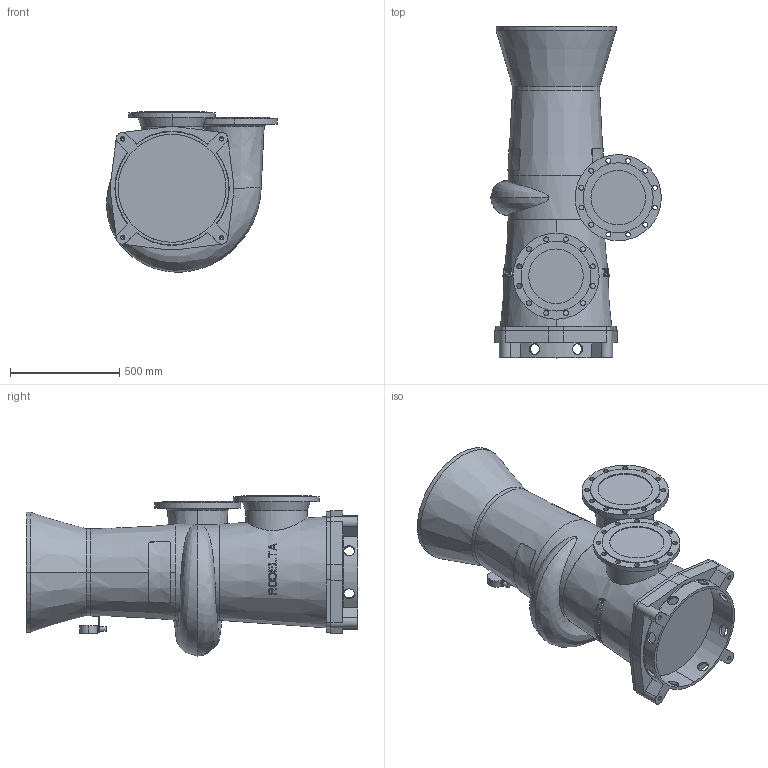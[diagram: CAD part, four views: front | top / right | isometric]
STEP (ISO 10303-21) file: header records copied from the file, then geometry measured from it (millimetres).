
FILE_DESCRIPTION((''),'2;1');
FILE_NAME('8310_VOOR_BLAD_ASM','2024-07-25T',('Lyritlocal'),(''),'PRO/ENGINEER BY PARAMETRIC TECHNOLOGY CORPORATION, 2016360','PRO/ENGINEER BY PARAMETRIC TECHNOLOGY CORPORATION, 2016360','');
FILE_SCHEMA(('CONFIG_CONTROL_DESIGN'));
Length unit declared in the file: millimetre
Products named in the file (3): 8310; 8310_VOET; 8310_VOOR_BLAD_ASM
Assembly tree (2 placements, depth 2):
  8310_VOOR_BLAD_ASM
    8310
    8310_VOET
Bounding box: 782.02 x 1521 x 734.02 mm (x, y, z)
Volume: 290401681.4 mm3; surface area: 4473475.7 mm2
Topology: 2 solids, 6 shells, 545 faces, 1466 edges, 969 vertices
Faces by surface type: plane 342, cylinder 153, cone 40, bspline 6, torus 4
Entity records: 19407 total; most frequent: CARTESIAN_POINT 6110, ORIENTED_EDGE 2900, DIRECTION 2489, EDGE_CURVE 1458, VERTEX_POINT 969, AXIS2_PLACEMENT_3D 967, EDGE_LOOP 661, VECTOR 555
